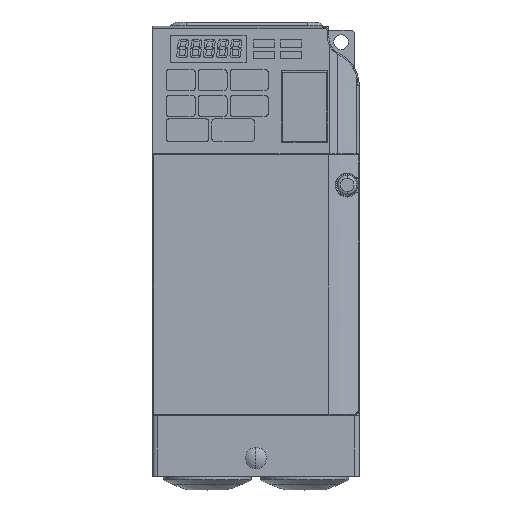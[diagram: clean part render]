
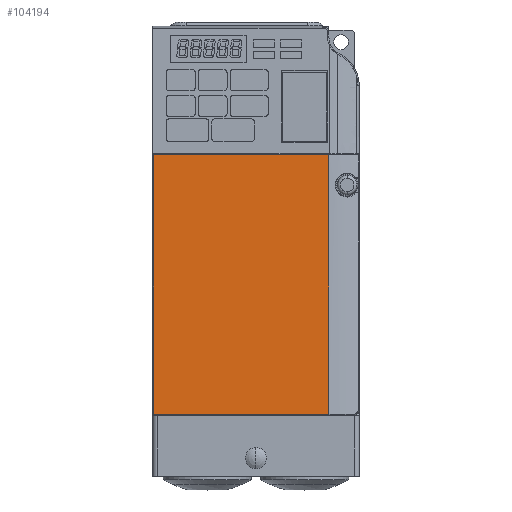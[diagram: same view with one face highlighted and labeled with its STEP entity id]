
A CAD part, top view. The second image highlights one B-rep face of the part: STEP entity #104194.
In plain terms, the highlighted planar face has unit normal (0, 0, 1).
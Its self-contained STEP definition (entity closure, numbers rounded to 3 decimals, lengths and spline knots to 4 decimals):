
#103169=DIRECTION('',(0.,-1.,0.));
#103170=VECTOR('',#103169,3.3614);
#103171=CARTESIAN_POINT('',(0.0952,2.6299,
5.5118));
#103172=LINE('',#103171,#103170);
#103329=DIRECTION('',(0.,1.,0.));
#103330=VECTOR('',#103329,3.3614);
#103331=CARTESIAN_POINT('',(2.3622,-0.7315,
5.5118));
#103332=LINE('',#103331,#103330);
#103352=DIRECTION('',(-1.,0.,0.));
#103353=VECTOR('',#103352,2.267);
#103354=CARTESIAN_POINT('',(2.3622,-0.7315,
5.5118));
#103355=LINE('',#103354,#103353);
#103356=DIRECTION('',(1.,0.,0.));
#103357=VECTOR('',#103356,2.267);
#103358=CARTESIAN_POINT('',(0.0952,2.6299,
5.5118));
#103359=LINE('',#103358,#103357);
#103729=CARTESIAN_POINT('',(0.0952,-0.7315,
5.5118));
#103730=VERTEX_POINT('',#103729);
#103731=CARTESIAN_POINT('',(2.3622,-0.7315,
5.5118));
#103732=VERTEX_POINT('',#103731);
#103754=CARTESIAN_POINT('',(0.0952,2.6299,
5.5118));
#103755=VERTEX_POINT('',#103754);
#103802=CARTESIAN_POINT('',(2.3622,2.6299,
5.5118));
#103803=VERTEX_POINT('',#103802);
#104182=CARTESIAN_POINT('',(0.0787,-0.748,
5.5118));
#104183=DIRECTION('',(0.,0.,1.));
#104184=DIRECTION('',(1.,0.,0.));
#104185=AXIS2_PLACEMENT_3D('',#104182,#104183,#104184);
#104186=PLANE('',#104185);
#104187=ORIENTED_EDGE('',*,*,#104167,.F.);
#104188=ORIENTED_EDGE('',*,*,#103910,.T.);
#104189=ORIENTED_EDGE('',*,*,#103961,.F.);
#104191=ORIENTED_EDGE('',*,*,#104190,.T.);
#104192=EDGE_LOOP('',(#104187,#104188,#104189,#104191));
#104193=FACE_OUTER_BOUND('',#104192,.F.);
#104194=ADVANCED_FACE('',(#104193),#104186,.T.);
#103910=EDGE_CURVE('',#103732,#103730,#103355,.T.);
#103961=EDGE_CURVE('',#103755,#103730,#103172,.T.);
#104167=EDGE_CURVE('',#103732,#103803,#103332,.T.);
#104190=EDGE_CURVE('',#103755,#103803,#103359,.T.);
